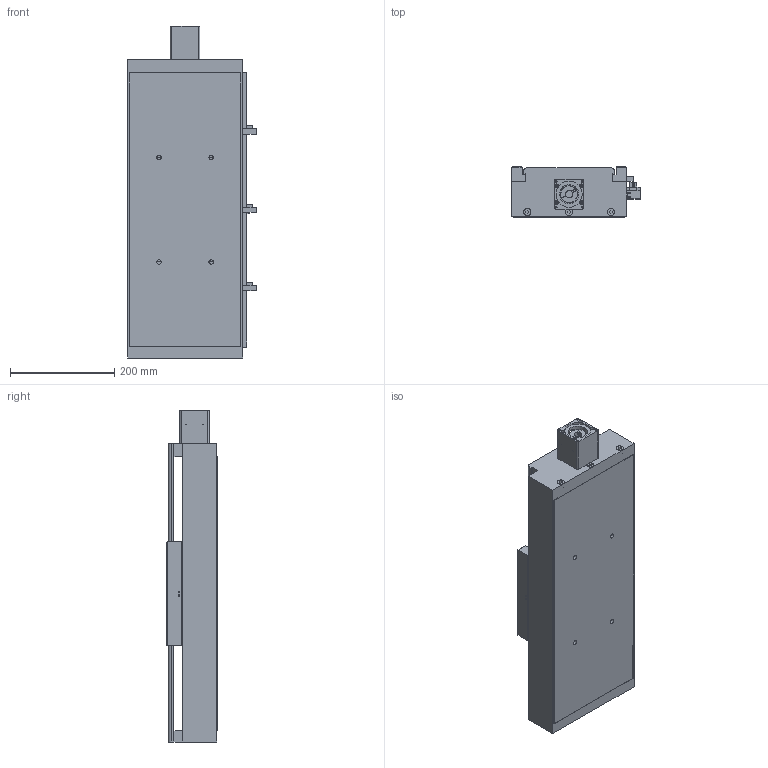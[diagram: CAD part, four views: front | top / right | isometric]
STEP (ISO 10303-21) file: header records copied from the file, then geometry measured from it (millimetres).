
FILE_DESCRIPTION((''),'2;1');
FILE_NAME('E:\libraries\UIA actuator library 2016\standard actuator\UIA220R20NDC\UIA220R20NDC ball screw 20\UIA220R20NDC-_ _ _-R20_ _ stp file, 01May16\UIA220R20NDC-300-R20_ _-M60-P13-C10-S.stp','2016-04-29T15:00:53',('h029'),(''),'Autodesk Inventor 11','Autodesk Inventor 11','');
FILE_SCHEMA(('AUTOMOTIVE_DESIGN { 1 0 10303 214 1 1 1 1 }'));
Length unit declared in the file: millimetre
Products named in the file (10): UIA220R20NDC-300-R20_ _; UIA220R20NDC-body; 41-100 0010 CARRIAGE; sensor rail; Sensor Switch; motor mount M60; SOH-32C; SOH-32C-3; SOH-32C-1; SOH-32C-2
Assembly tree (9 placements, depth 3):
  UIA220R20NDC-300-R20_ _
    UIA220R20NDC-body
    41-100 0010 CARRIAGE
    sensor rail
    Sensor Switch
    motor mount M60
    SOH-32C
      SOH-32C-3
      SOH-32C-1
      SOH-32C-2
Bounding box: 246.5 x 96 x 636 mm (x, y, z)
Volume: 4307434 mm3; surface area: 943122.5 mm2
Topology: 8 solids, 8 shells, 500 faces, 1342 edges, 882 vertices
Faces by surface type: plane 341, bspline 109, cylinder 48, cone 2
Full cylindrical faces by diameter (mm): 3.242 x2, 4.5 x2, 7 x4, 7.5 x2, 12 x2, 13.8 x3, 14 x4, 15 x1, 32 x3, 37 x1, 46.9 x1, 47.1 x1
Entity records: 16326 total; most frequent: CARTESIAN_POINT 4540, ORIENTED_EDGE 2298, DIRECTION 2249, EDGE_CURVE 1149, VECTOR 849, LINE 849, VERTEX_POINT 808, EDGE_LOOP 711
